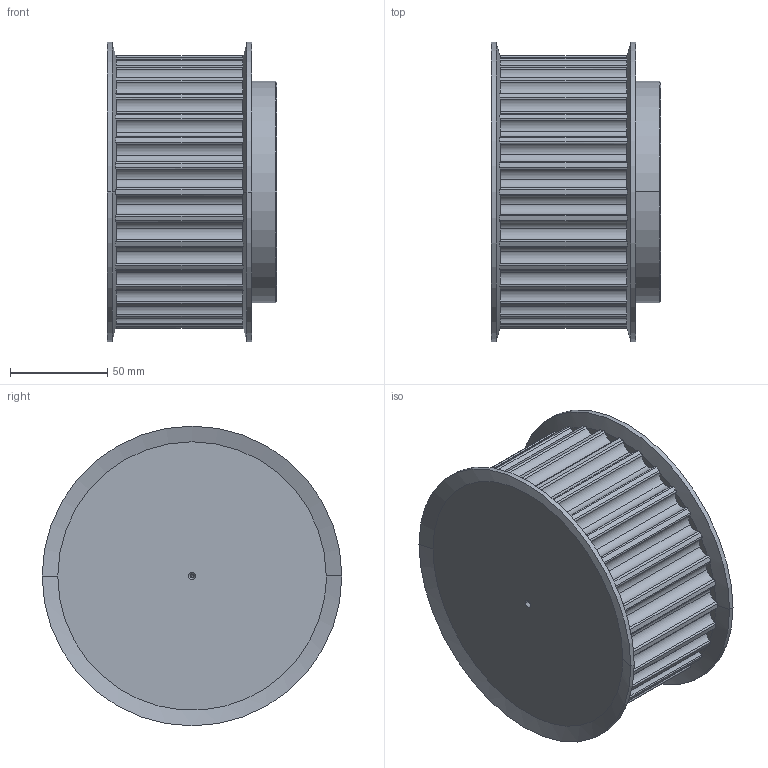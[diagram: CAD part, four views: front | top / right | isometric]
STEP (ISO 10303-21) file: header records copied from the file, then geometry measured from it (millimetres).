
FILE_DESCRIPTION(('STEP AP214'),'1');
FILE_NAME('32_-_14_m_55.stp','2018-06-07T14:53:06',('TraceParts'),('TraceParts S.A.'),'Spatial InterOp 3D',' ',' ');
FILE_SCHEMA(('automotive_design'));
Length unit declared in the file: millimetre
Products named in the file (1): 32_-_14_m_55
Bounding box: 87.14 x 154 x 154 mm (x, y, z)
Volume: 1173320 mm3; surface area: 91316.9 mm2
Topology: 1 solids, 1 shells, 255 faces, 742 edges, 488 vertices
Faces by surface type: cylinder 170, plane 67, cone 18
Entity records: 9529 total; most frequent: CARTESIAN_POINT 3018, ORIENTED_EDGE 1476, DIRECTION 1288, EDGE_CURVE 738, AXIS2_PLACEMENT_3D 550, VERTEX_POINT 488, CIRCLE 294, EDGE_LOOP 258
